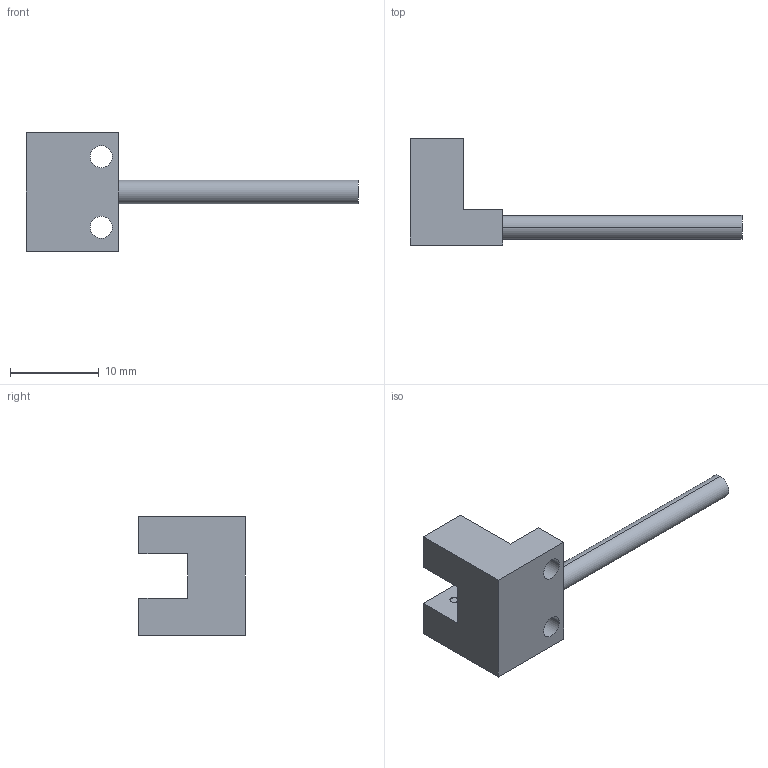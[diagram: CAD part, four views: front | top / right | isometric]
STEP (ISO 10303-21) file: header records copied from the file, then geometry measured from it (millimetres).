
FILE_DESCRIPTION (( 'STEP AP203' ), '1' );
FILE_NAME ('PM-L24.STEP', '2005-09-05T08:26:53', ( '' ), ( '' ), 'SwSTEP 2.0', 'SolidWorks 2004073', '' );
FILE_SCHEMA (( 'CONFIG_CONTROL_DESIGN' ));
Length unit declared in the file: millimetre
Products named in the file (1): PM-L24
Bounding box: 37.5 x 12 x 13.4 mm (x, y, z)
Volume: 1152.8 mm3; surface area: 1070.2 mm2
Topology: 1 solids, 1 shells, 31 faces, 78 edges, 52 vertices
Faces by surface type: plane 21, cylinder 10
Entity records: 1017 total; most frequent: DIRECTION 162, CARTESIAN_POINT 162, ORIENTED_EDGE 156, EDGE_CURVE 78, VECTOR 58, LINE 58, VERTEX_POINT 52, AXIS2_PLACEMENT_3D 52
